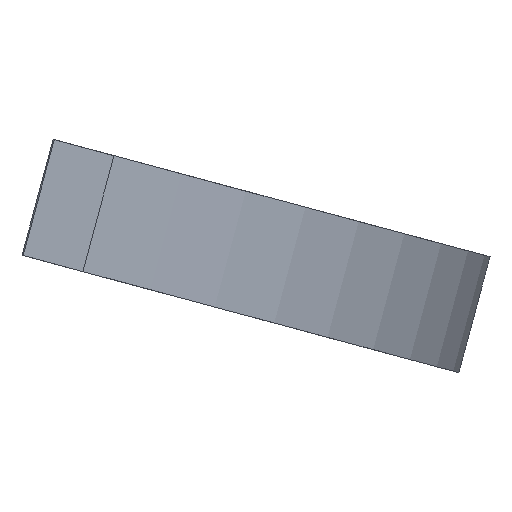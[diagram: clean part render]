
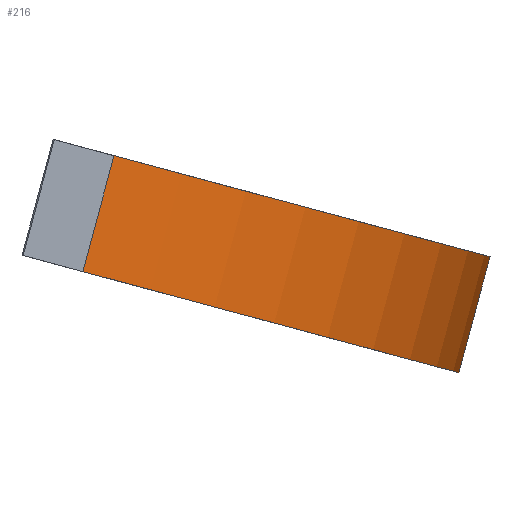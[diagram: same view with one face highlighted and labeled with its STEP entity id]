
A CAD part, front view. The second image highlights one B-rep face of the part: STEP entity #216.
In plain terms, the highlighted cylindrical face has radius 10.51 mm (diameter 21.02 mm), a partial arc.
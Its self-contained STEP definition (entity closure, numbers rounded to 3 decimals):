
#16=CYLINDRICAL_SURFACE('',#242,10.51);
#17=CIRCLE('',#234,10.51);
#20=CIRCLE('',#243,10.51);
#34=LINE('',#504,#50);
#35=LINE('',#508,#51);
#50=VECTOR('',#279,10.);
#51=VECTOR('',#284,10.);
#69=FACE_OUTER_BOUND('',#81,.T.);
#81=EDGE_LOOP('',(#186,#187,#188,#189));
#101=VERTEX_POINT('',#440);
#102=VERTEX_POINT('',#442);
#112=VERTEX_POINT('',#502);
#113=VERTEX_POINT('',#506);
#123=EDGE_CURVE('',#102,#101,#17,.T.);
#140=EDGE_CURVE('',#101,#112,#34,.T.);
#141=EDGE_CURVE('',#113,#112,#20,.T.);
#142=EDGE_CURVE('',#102,#113,#35,.T.);
#186=ORIENTED_EDGE('',*,*,#123,.T.);
#187=ORIENTED_EDGE('',*,*,#140,.T.);
#188=ORIENTED_EDGE('',*,*,#141,.F.);
#189=ORIENTED_EDGE('',*,*,#142,.F.);
#216=ADVANCED_FACE('',(#69),#16,.T.);
#234=AXIS2_PLACEMENT_3D('',#443,#252,#253);
#242=AXIS2_PLACEMENT_3D('',#505,#280,#281);
#243=AXIS2_PLACEMENT_3D('',#507,#282,#283);
#252=DIRECTION('center_axis',(-0.26,0.,-0.966));
#253=DIRECTION('ref_axis',(0.966,0.,-0.26));
#279=DIRECTION('',(-0.26,0.,-0.966));
#280=DIRECTION('center_axis',(-0.26,0.,-0.966));
#281=DIRECTION('ref_axis',(0.966,0.,-0.26));
#282=DIRECTION('center_axis',(-0.26,0.,-0.966));
#283=DIRECTION('ref_axis',(0.966,0.,-0.26));
#284=DIRECTION('',(-0.26,0.,-0.966));
#440=CARTESIAN_POINT('',(-16.81,-131.629,-195.407));
#442=CARTESIAN_POINT('',(-7.908,-121.199,-197.8));
#443=CARTESIAN_POINT('Origin',(-18.057,-121.199,-195.072));
#502=CARTESIAN_POINT('',(-17.547,-131.629,-198.151));
#504=CARTESIAN_POINT('',(-16.758,-131.629,-195.214));
#505=CARTESIAN_POINT('Origin',(-18.006,-121.199,-194.879));
#506=CARTESIAN_POINT('',(-8.645,-121.199,-200.544));
#507=CARTESIAN_POINT('Origin',(-18.795,-121.199,-197.815));
#508=CARTESIAN_POINT('',(-7.856,-121.199,-197.607));
